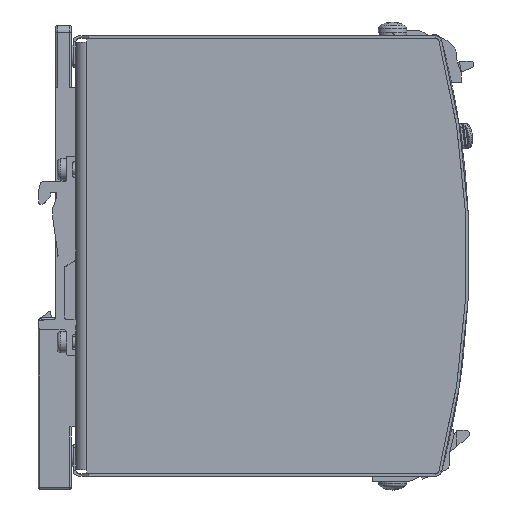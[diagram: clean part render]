
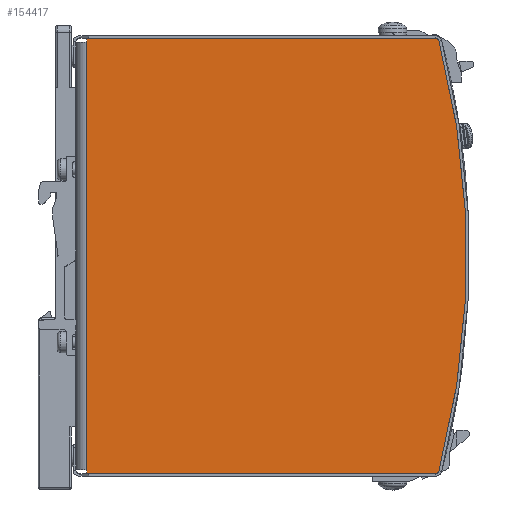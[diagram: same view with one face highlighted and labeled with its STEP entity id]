
A CAD part, front view. The second image highlights one B-rep face of the part: STEP entity #154417.
In plain terms, the highlighted planar face has unit normal (0, -1, 0) as drawn and (1, 0, 0) by its records, which use the part's own axes.
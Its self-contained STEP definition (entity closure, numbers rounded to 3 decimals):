
#153983=CARTESIAN_POINT('',(16.,-60.15,-1.5));
#153984=VERTEX_POINT('',#153983);
#153994=CARTESIAN_POINT('',(16.,60.15,-1.5));
#153995=VERTEX_POINT('',#153994);
#153996=CARTESIAN_POINT('',(16.,-60.15,-1.5));
#153997=DIRECTION('',(0.0,1.0,0.0));
#153998=VECTOR('',#153997,120.3);
#153999=LINE('',#153996,#153998);
#154000=EDGE_CURVE('',#153984,#153995,#153999,.T.);
#154336=CARTESIAN_POINT('',(16.,60.65,-100.193));
#154337=DIRECTION('',(-1.0,0.0,0.0));
#154338=DIRECTION('',(0.0,0.0,1.0));
#154339=AXIS2_PLACEMENT_3D('',#154336,#154337,#154338);
#154340=PLANE('',#154339);
#154341=ORIENTED_EDGE('',*,*,#154000,.F.);
#154342=CARTESIAN_POINT('',(16.,-60.15,-1.6));
#154343=VERTEX_POINT('',#154342);
#154344=CARTESIAN_POINT('',(16.,-60.15,-1.6));
#154345=DIRECTION('',(0.0,0.0,1.0));
#154346=VECTOR('',#154345,0.1);
#154347=LINE('',#154344,#154346);
#154348=EDGE_CURVE('',#154343,#153984,#154347,.T.);
#154349=ORIENTED_EDGE('',*,*,#154348,.F.);
#154350=CARTESIAN_POINT('',(16.,-61.15,-1.6));
#154351=VERTEX_POINT('',#154350);
#154352=CARTESIAN_POINT('',(16.,-61.15,-1.6));
#154353=DIRECTION('',(0.0,1.0,0.0));
#154354=VECTOR('',#154353,1.);
#154355=LINE('',#154352,#154354);
#154356=EDGE_CURVE('',#154351,#154343,#154355,.T.);
#154357=ORIENTED_EDGE('',*,*,#154356,.F.);
#154358=CARTESIAN_POINT('',(16.,-61.15,-100.193));
#154359=VERTEX_POINT('',#154358);
#154360=CARTESIAN_POINT('',(16.,-61.15,-100.193));
#154361=DIRECTION('',(0.0,0.0,1.0));
#154362=VECTOR('',#154361,98.593);
#154363=LINE('',#154360,#154362);
#154364=EDGE_CURVE('',#154359,#154351,#154363,.T.);
#154365=ORIENTED_EDGE('',*,*,#154364,.F.);
#154366=CARTESIAN_POINT('',(16.,-60.777,-100.677));
#154367=VERTEX_POINT('',#154366);
#154368=CARTESIAN_POINT('',(16.,-60.65,-100.193));
#154369=DIRECTION('',(-1.0,0.0,0.0));
#154370=DIRECTION('',(0.0,0.0,1.0));
#154371=AXIS2_PLACEMENT_3D('',#154368,#154369,#154370);
#154372=CIRCLE('',#154371,0.5);
#154373=EDGE_CURVE('',#154367,#154359,#154372,.T.);
#154374=ORIENTED_EDGE('',*,*,#154373,.F.);
#154375=CARTESIAN_POINT('',(16.,60.777,-100.677));
#154376=VERTEX_POINT('',#154375);
#154377=CARTESIAN_POINT('',(16.,0.,131.5));
#154378=DIRECTION('',(-1.0,0.0,0.0));
#154379=DIRECTION('',(0.0,0.0,1.0));
#154380=AXIS2_PLACEMENT_3D('',#154377,#154378,#154379);
#154381=CIRCLE('',#154380,240.0);
#154382=EDGE_CURVE('',#154376,#154367,#154381,.T.);
#154383=ORIENTED_EDGE('',*,*,#154382,.F.);
#154384=CARTESIAN_POINT('',(16.,61.15,-100.193));
#154385=VERTEX_POINT('',#154384);
#154386=CARTESIAN_POINT('',(16.,60.65,-100.193));
#154387=DIRECTION('',(-1.0,0.0,0.0));
#154388=DIRECTION('',(0.0,0.0,1.0));
#154389=AXIS2_PLACEMENT_3D('',#154386,#154387,#154388);
#154390=CIRCLE('',#154389,0.5);
#154391=EDGE_CURVE('',#154385,#154376,#154390,.T.);
#154392=ORIENTED_EDGE('',*,*,#154391,.F.);
#154393=CARTESIAN_POINT('',(16.,61.15,-1.6));
#154394=VERTEX_POINT('',#154393);
#154395=CARTESIAN_POINT('',(16.,61.15,-1.6));
#154396=DIRECTION('',(0.0,0.0,-1.0));
#154397=VECTOR('',#154396,98.593);
#154398=LINE('',#154395,#154397);
#154399=EDGE_CURVE('',#154394,#154385,#154398,.T.);
#154400=ORIENTED_EDGE('',*,*,#154399,.F.);
#154401=CARTESIAN_POINT('',(16.,60.15,-1.6));
#154402=VERTEX_POINT('',#154401);
#154403=CARTESIAN_POINT('',(16.,60.15,-1.6));
#154404=DIRECTION('',(0.0,1.0,0.0));
#154405=VECTOR('',#154404,1.);
#154406=LINE('',#154403,#154405);
#154407=EDGE_CURVE('',#154402,#154394,#154406,.T.);
#154408=ORIENTED_EDGE('',*,*,#154407,.F.);
#154409=CARTESIAN_POINT('',(16.,60.15,-1.5));
#154410=DIRECTION('',(0.0,0.0,-1.0));
#154411=VECTOR('',#154410,0.1);
#154412=LINE('',#154409,#154411);
#154413=EDGE_CURVE('',#153995,#154402,#154412,.T.);
#154414=ORIENTED_EDGE('',*,*,#154413,.F.);
#154415=EDGE_LOOP('',(#154341,#154349,#154357,#154365,#154374,#154383,#154392,#154400,#154408,#154414));
#154416=FACE_OUTER_BOUND('',#154415,.T.);
#154417=ADVANCED_FACE('',(#154416),#154340,.F.);
